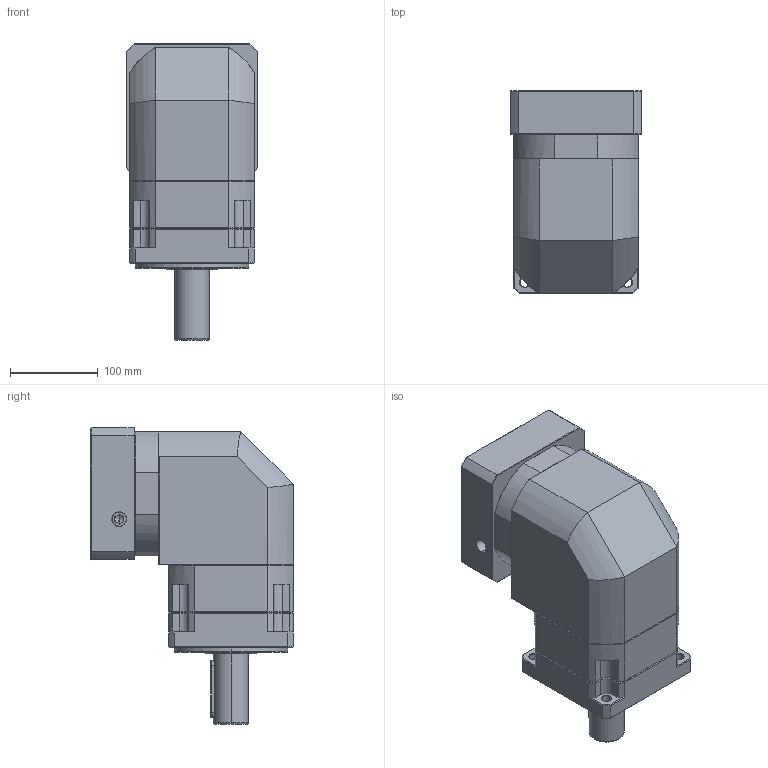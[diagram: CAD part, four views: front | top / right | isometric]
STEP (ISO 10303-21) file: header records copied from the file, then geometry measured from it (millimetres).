
FILE_DESCRIPTION (( 'STEP AP214' ), '1' );
FILE_NAME ('ZBR142A-D40-L1-P2-28-130-165-M10.step', '2023-09-02T07:10:55', ( '' ), ( '' ), 'SwSTEP 2.0', 'SolidWorks 2016', '' );
FILE_SCHEMA (( 'AUTOMOTIVE_DESIGN' ));
Length unit declared in the file: millimetre
Products named in the file (1): ZBR142A-D40-L1-P2-28-130-165-M10
Bounding box: 150 x 231 x 337.7 mm (x, y, z)
Volume: 5512728.9 mm3; surface area: 400061.2 mm2
Topology: 6 solids, 6 shells, 2313 faces, 6106 edges, 3900 vertices
Faces by surface type: plane 1120, cylinder 424, bspline 415, cone 332, torus 22
Entity records: 130771 total; most frequent: CARTESIAN_POINT 51541, ORIENTED_EDGE 12152, DIRECTION 9577, EDGE_CURVE 6076, VECTOR 3903, LINE 3903, VERTEX_POINT 3900, AXIS2_PLACEMENT_3D 2837
